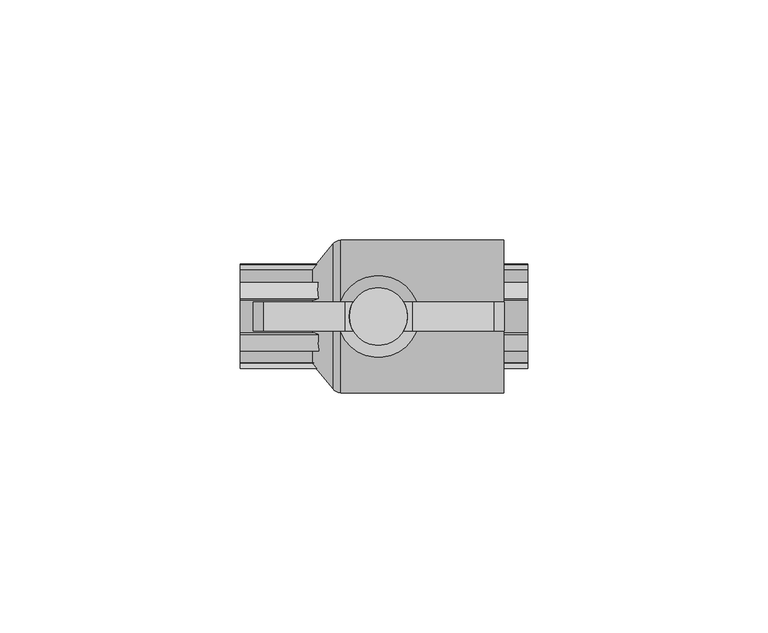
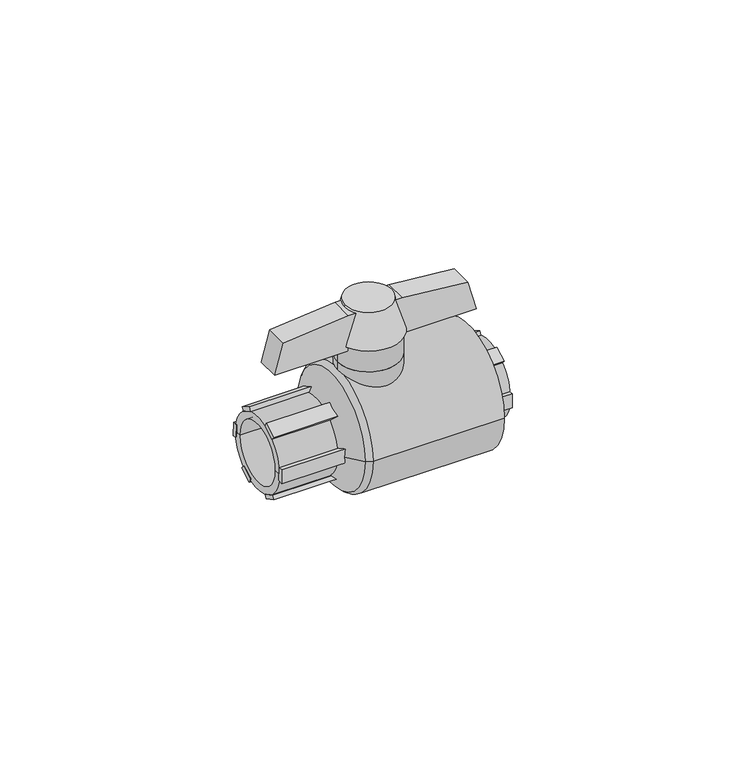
"""IFC4 building model written with IfcOpenShell, lengths in millimetres: valve geometry, Valvula Bola_Lubrizol_CPVC_FlowGuard_MX 13mm : Valvula Bola_Lubrizol_CPVC_FlowGuard_MX 13mm."""

import ifcopenshell
import ifcopenshell.guid

model = None  # the IFC model being written
_history = None  # IfcOwnerHistory: only IFC2X3 demands one
_inside = {}  # id of a spatial element -> (the spatial element, [elements in it])
_under = {}  # id of a project, library or spatial element -> (it, [spatial elements below it])
_declared = {}  # id of a project -> (the project, [libraries it declares])
_typed = {}  # id of a type object -> (the type object, [elements of that type])
_made_of = {}  # id of a material, layer set ... -> (it, [elements and type objects made of it])


def new_model(schema):
    """Start an empty IFC model of exactly this schema.

    Asked for "IFC4X3", IfcOpenShell would pick the latest addendum, in which some entities
    have other attributes; the version numbers below select the first issue.
    IFC2X3 requires an IfcOwnerHistory on every rooted entity: one is made here for all.
    """
    global model, _history
    if schema == "IFC4X3":
        model = ifcopenshell.file(schema_version=(4, 3, 0, 0))
    else:
        model = ifcopenshell.file(schema=schema)
    _inside.clear()
    _under.clear()
    _declared.clear()
    _typed.clear()
    _made_of.clear()
    _history = None
    if model.schema == "IFC2X3":
        org = make("IfcOrganization", Name="unknown")
        user = make(
            "IfcPersonAndOrganization",
            ThePerson=make("IfcPerson", FamilyName="unknown"),
            TheOrganization=org,
        )
        app = make(
            "IfcApplication",
            ApplicationDeveloper=org,
            Version="unknown",
            ApplicationFullName="unknown",
            ApplicationIdentifier="unknown",
        )
        _history = make(
            "IfcOwnerHistory",
            OwningUser=user,
            OwningApplication=app,
            ChangeAction="ADDED",
            CreationDate=0,
        )
    return model


def make(cls, **values):
    """One entity of the class cls with the attributes given. An attribute that is None is left unset."""
    return model.create_entity(
        cls, **{name: value for name, value in values.items() if value is not None}
    )


def rooted(cls, **values):
    """An entity with a GlobalId (a new one), such as an element, a storey or a relation."""
    return make(cls, GlobalId=ifcopenshell.guid.new(), OwnerHistory=_history, **values)


def si_unit(unit_type, name, prefix=None):
    """IfcSIUnit, for example si_unit("LENGTHUNIT", "METRE", prefix="MILLI")."""
    return make("IfcSIUnit", UnitType=unit_type, Prefix=prefix, Name=name)


def assignment(units):
    """IfcUnitAssignment: the units of a project."""
    return None if units is None else make("IfcUnitAssignment", Units=units)


def point(xyz):
    """IfcCartesianPoint."""
    return None if xyz is None else make("IfcCartesianPoint", Coordinates=xyz)


def direction(xyz):
    """IfcDirection."""
    return None if xyz is None else make("IfcDirection", DirectionRatios=xyz)


def frame(location, z_axis=None, x_axis=None):
    """IfcAxis2Placement3D, a coordinate frame: its origin and axes. An axis left out is left unset."""
    return make(
        "IfcAxis2Placement3D",
        Location=point(location),
        Axis=direction(z_axis),
        RefDirection=direction(x_axis),
    )


def frame_2d(location, x_axis=None):
    """IfcAxis2Placement2D, a coordinate frame in the plane: its origin and x axis."""
    return make(
        "IfcAxis2Placement2D", Location=point(location), RefDirection=direction(x_axis)
    )


def origin():
    """The frame at (0, 0, 0) with its axes left unset."""
    return frame((0.0, 0.0, 0.0))


def place(relative_to, where):
    """IfcLocalPlacement: puts the frame where relative to a parent placement (None: the world)."""
    return make(
        "IfcLocalPlacement", PlacementRelTo=relative_to, RelativePlacement=where
    )


def context(
    kind, dimensions, precision=None, world=None, true_north=None, identifier=None
):
    """IfcGeometricRepresentationContext, for example the 3D "Model" context."""
    return make(
        "IfcGeometricRepresentationContext",
        ContextIdentifier=identifier,
        ContextType=kind,
        CoordinateSpaceDimension=dimensions,
        Precision=precision,
        WorldCoordinateSystem=world,
        TrueNorth=true_north,
    )


def project(units=None, contexts=None):
    """IfcProject with its units and contexts."""
    return rooted(
        "IfcProject",
        Name="project",
        RepresentationContexts=contexts,
        UnitsInContext=assignment(units),
    )


def spatial(cls, under=None, at=None, **own):
    """A site, building, storey or space (cls), placed at a placement, below another one or the project."""
    s = rooted(cls, ObjectPlacement=at, **own)
    if under is not None:
        _under.setdefault(under.id(), (under, []))[1].append(s)
    return s


def polyline(points):
    """IfcPolyline through the points."""
    return make("IfcPolyline", Points=[point(p) for p in points])


def circle_curve(where, radius):
    """IfcCircle in the frame where."""
    return make("IfcCircle", Position=where, Radius=radius)


def ellipse_curve(where, semi_axis1, semi_axis2):
    """IfcEllipse in the frame where."""
    return make(
        "IfcEllipse", Position=where, SemiAxis1=semi_axis1, SemiAxis2=semi_axis2
    )


def trimmed(basis, trim1, trim2, sense, master):
    """IfcTrimmedCurve: the piece of a basis curve between two trims."""
    return make(
        "IfcTrimmedCurve",
        BasisCurve=basis,
        Trim1=trim1,
        Trim2=trim2,
        SenseAgreement=sense,
        MasterRepresentation=master,
    )


def segment(curve, same_sense, transition):
    """IfcCompositeCurveSegment."""
    return make(
        "IfcCompositeCurveSegment",
        Transition=transition,
        SameSense=same_sense,
        ParentCurve=curve,
    )


def composite_curve(segments, self_intersect=None):
    """IfcCompositeCurve: segments joined end to end."""
    return make("IfcCompositeCurve", Segments=segments, SelfIntersect=self_intersect)


def outline(outer, holes=None, kind="AREA"):
    """IfcArbitraryClosedProfileDef: a profile drawn as a closed curve; with holes, ...WithVoids."""
    if holes is None:
        return make("IfcArbitraryClosedProfileDef", ProfileType=kind, OuterCurve=outer)
    return make(
        "IfcArbitraryProfileDefWithVoids",
        ProfileType=kind,
        OuterCurve=outer,
        InnerCurves=holes,
    )


def extrude(swept, where, along, depth):
    """IfcExtrudedAreaSolid: the profile swept, set in the frame where, extruded along a direction by depth."""
    return make(
        "IfcExtrudedAreaSolid",
        SweptArea=swept,
        Position=where,
        ExtrudedDirection=direction(along),
        Depth=depth,
    )


def shape(context_of_items, identifier, shape_type, items):
    """IfcShapeRepresentation: the items that make up one representation, for example the "Body"."""
    return make(
        "IfcShapeRepresentation",
        ContextOfItems=context_of_items,
        RepresentationIdentifier=identifier,
        RepresentationType=shape_type,
        Items=items,
    )


def source(mapping_origin, context_of_items, identifier, shape_type, items):
    """IfcRepresentationMap: a shape defined once, which mapped items show again and again."""
    return make(
        "IfcRepresentationMap",
        MappingOrigin=mapping_origin,
        MappedRepresentation=shape(context_of_items, identifier, shape_type, items),
    )


def transform(
    local_origin,
    x_axis=None,
    y_axis=None,
    z_axis=None,
    scale=None,
    scale2=None,
    scale3=None,
    uniform=True,
):
    """IfcCartesianTransformationOperator3D, or its non-uniform kind. x_axis, y_axis, z_axis: its Axis1, 2, 3."""
    if uniform:
        return make(
            "IfcCartesianTransformationOperator3D",
            Axis1=direction(x_axis),
            Axis2=direction(y_axis),
            LocalOrigin=point(local_origin),
            Scale=scale,
            Axis3=direction(z_axis),
        )
    return make(
        "IfcCartesianTransformationOperator3DnonUniform",
        Axis1=direction(x_axis),
        Axis2=direction(y_axis),
        LocalOrigin=point(local_origin),
        Scale=scale,
        Axis3=direction(z_axis),
        Scale2=scale2,
        Scale3=scale3,
    )


def mapped(mapping_source, mapping_target):
    """IfcMappedItem: shows the shape of a source again, moved by a transform."""
    return make(
        "IfcMappedItem", MappingSource=mapping_source, MappingTarget=mapping_target
    )


def made_of(thing, what):
    """Note that an element or type object is made of a material, layer set ...; save() writes the relation."""
    if what is not None:
        _made_of.setdefault(what.id(), (what, []))[1].append(thing)
    return thing


def element(
    cls,
    number,
    at=None,
    inside=None,
    cuts=None,
    type_object=None,
    material=None,
    context=None,
    identifier="Body",
    shape_type=None,
    held_by="IfcProductDefinitionShape",
    body=None,
    shapes=None,
    **own,
):
    """One element of the class cls, such as IfcWall. Its Tag is "e" and its number.

    at: its placement. inside: the storey or other place that contains it. cuts: it is an
    opening in that element (IfcRelVoidsElement). A single representation is given by context,
    identifier, shape_type and body (its items); several are given by shapes. held_by: the class
    of the entity that holds the representations. save() writes the other relations.
    """
    e = rooted(cls, Tag="e%d" % number, ObjectPlacement=at, **own)
    if body is not None:
        shapes = [shape(context, identifier, shape_type, body)]
    if shapes is not None:
        e.Representation = make(held_by, Representations=shapes)
    if inside is not None:
        _inside.setdefault(inside.id(), (inside, []))[1].append(e)
    if cuts is not None:
        rooted(
            "IfcRelVoidsElement", RelatingBuildingElement=cuts, RelatedOpeningElement=e
        )
    if type_object is not None:
        _typed.setdefault(type_object.id(), (type_object, []))[1].append(e)
    return made_of(e, material)


def aggregate(whole, parts):
    """IfcRelAggregates: a whole, such as a stair, and the parts it consists of."""
    return rooted("IfcRelAggregates", RelatingObject=whole, RelatedObjects=parts)


def save(model, path):
    """Write the relations noted so far, then the file.

    IfcRelAggregates (storeys below a building ...), IfcRelContainedInSpatialStructure (elements
    in a storey), IfcRelDefinesByType, IfcRelAssociatesMaterial and IfcRelDeclares: one each for
    every whole, place, type object, material and project.
    """
    for whole, parts in _under.values():
        aggregate(whole, parts)
    for where, things in _inside.values():
        rooted(
            "IfcRelContainedInSpatialStructure",
            RelatedElements=things,
            RelatingStructure=where,
        )
    for kind, things in _typed.values():
        rooted("IfcRelDefinesByType", RelatedObjects=things, RelatingType=kind)
    for what, things in _made_of.values():
        rooted("IfcRelAssociatesMaterial", RelatedObjects=things, RelatingMaterial=what)
    for by, libraries in _declared.values():
        rooted("IfcRelDeclares", RelatingContext=by, RelatedDefinitions=libraries)
    model.write(path)


def plane_surface(at):
    """IfcPlane: the flat surface through the origin of the frame at, square to its z axis."""
    return make("IfcPlane", Position=at)


def cylinder_surface(at, radius):
    """IfcCylindricalSurface: all points at the distance radius from the z axis of the frame at."""
    return make("IfcCylindricalSurface", Position=at, Radius=radius)


def revolved_surface(curve, axis_point, axis_direction):
    """IfcSurfaceOfRevolution: the curve turned about the line through axis_point along axis_direction."""
    return make(
        "IfcSurfaceOfRevolution",
        SweptCurve=make("IfcArbitraryOpenProfileDef", ProfileType="CURVE", Curve=curve),
        AxisPosition=make("IfcAxis1Placement", Location=point(axis_point), Axis=direction(axis_direction)),
    )


def advanced_brep(points, edges, surfaces, faces):
    """IfcAdvancedBrep: a solid bounded by faces that lie on surfaces and meet in shared edges.

    An edge is (start, end): straight between two places in points (the first is 0);
    or (start, end, curve); or (start, end, curve, False) where it runs against its curve.
    A face is (place in surfaces, loops), or (place, loops, False) where it looks against
    its surface's normal. A loop lists edges by number (the first is 1), with a minus sign
    where the edge is run from its end to its start. The first loop is the outer one.
    """
    corners = [point(p) for p in points]
    vertices = [make("IfcVertexPoint", VertexGeometry=c) for c in corners]
    made = []
    for start, end, *more in edges:
        made.append(
            make(
                "IfcEdgeCurve",
                EdgeStart=vertices[start],
                EdgeEnd=vertices[end],
                EdgeGeometry=more[0] if more else make("IfcPolyline", Points=[corners[start], corners[end]]),
                SameSense=more[1] if len(more) > 1 else True,
            )
        )
    hull = []
    for where, loops, *sense in faces:
        bounds = []
        for j, loop in enumerate(loops):
            ring = [make("IfcOrientedEdge", EdgeElement=made[abs(k) - 1], Orientation=k > 0) for k in loop]
            bounds.append(
                make(
                    "IfcFaceOuterBound" if j == 0 else "IfcFaceBound",
                    Bound=make("IfcEdgeLoop", EdgeList=ring),
                    Orientation=True,
                )
            )
        hull.append(make("IfcAdvancedFace", Bounds=bounds, FaceSurface=surfaces[where], SameSense=sense[0] if sense else True))
    return make("IfcAdvancedBrep", Outer=make("IfcClosedShell", CfsFaces=hull))


def valve_255bd8fb(model_context):
    return source(origin(), model_context, "Body", "SolidModel", [
        extrude(outline(polyline([(22.172164, -32.2903482), (22.172164, 19.9626836), (30.2326633, 17.8028793), (31.8244556, 0.8226438), (31.8244556, -13.1716566), (30.2326633, -30.130544), (22.172164, -32.2903482)])), frame((0.0, -3.0, 0.0), z_axis=(0.0, 1.0, 0.0), x_axis=(0.0, 0.0, 1.0)), (0.0, 0.0, 1.0), 6.0),
        extrude(outline(composite_curve([segment(trimmed(circle_curve(frame_2d((4.0840847, -8.8834928)), 20.8), [point((-7.2048904, 8.586454))], [point((-3.7759157, 10.3742431))], False, "CARTESIAN"), True, "CONTINUOUS"), segment(polyline([(-3.7759157, 10.3742431), (-3.4180382, 9.3909829)]), True, "CONTINUOUS"), segment(trimmed(circle_curve(frame_2d((4.701954, -8.11775)), 19.3), [point((-3.4180382, 9.3909829))], [point((-6.4222868, 7.6537834))], True, "CARTESIAN"), True, "CONTINUOUS"), segment(polyline([(-6.4222868, 7.6537834), (-7.2048904, 8.586454)]), True, "CONTINUOUS")], self_intersect=False)), frame((19.8622305, 0.0, 0.0), z_axis=(1.0, 0.0, 0.0), x_axis=(0.0, 1.0, 0.0)), (0.0, 0.0, 1.0), 5.0),
        extrude(outline(composite_curve([segment(polyline([(10.9430325, -1.9295519), (9.8250025, -1.732413)]), True, "CONTINUOUS"), segment(trimmed(circle_curve(frame_2d((-9.4594162, -0.9570454)), 19.3), [point((9.8250025, -1.732413))], [point((9.6564361, 1.7026902))], True, "CARTESIAN"), True, "CONTINUOUS"), segment(polyline([(9.6564361, 1.7026902), (10.8076782, 1.9056853)]), True, "CONTINUOUS"), segment(trimmed(circle_curve(frame_2d((-9.8230634, -0.7424279)), 20.8), [point((10.8076782, 1.9056853))], [point((10.9430325, -1.9295519))], False, "CARTESIAN"), True, "CONTINUOUS")], self_intersect=False)), frame((19.8622305, 0.0, 0.0), z_axis=(1.0, 0.0, 0.0), x_axis=(0.0, 1.0, 0.0)), (0.0, 0.0, 1.0), 5.0),
        extrude(outline(composite_curve([segment(polyline([(-7.1507637, -8.5219484), (-6.4795686, -7.7220491)]), True, "CONTINUOUS"), segment(trimmed(circle_curve(frame_2d((4.0907226, 8.4259831)), 19.3), [point((-6.4795686, -7.7220491))], [point((-3.4061984, -9.3584532))], True, "CARTESIAN"), True, "CONTINUOUS"), segment(polyline([(-3.4061984, -9.3584532), (-3.7405306, -10.2770232)]), True, "CONTINUOUS"), segment(trimmed(circle_curve(frame_2d((4.0319731, 9.0161928)), 20.8), [point((-3.7405306, -10.2770232))], [point((-7.1507637, -8.5219484))], False, "CARTESIAN"), True, "CONTINUOUS")], self_intersect=False)), frame((19.8622305, 0.0, 0.0), z_axis=(1.0, 0.0, 0.0), x_axis=(0.0, 1.0, 0.0)), (0.0, 0.0, 1.0), 5.0),
        extrude(outline(composite_curve([segment(trimmed(circle_curve(frame_2d((-4.766466, 8.636562)), 20.8), [point((7.0920107, -8.4519292))], [point((3.7615613, -10.3348046))], False, "CARTESIAN"), True, "CONTINUOUS"), segment(polyline([(3.7615613, -10.3348046), (3.3471879, -9.1963231)]), True, "CONTINUOUS"), segment(trimmed(circle_curve(frame_2d((-4.2577644, 8.5421858)), 19.3), [point((3.3471879, -9.1963231))], [point((6.3573619, -7.5764088))], True, "CARTESIAN"), True, "CONTINUOUS"), segment(polyline([(6.3573619, -7.5764088), (7.0920107, -8.4519292)]), True, "CONTINUOUS")], self_intersect=False)), frame((19.8622305, 0.0, 0.0), z_axis=(1.0, 0.0, 0.0), x_axis=(0.0, 1.0, 0.0)), (0.0, 0.0, 1.0), 5.0),
        extrude(outline(composite_curve([segment(polyline([(7.0652889, 8.4200834), (6.367765, 7.5888068)]), True, "CONTINUOUS"), segment(trimmed(circle_curve(frame_2d((-4.6674192, -8.2451664)), 19.3), [point((6.367765, 7.5888068))], [point((3.3832958, 9.2955288))], True, "CARTESIAN"), True, "CONTINUOUS"), segment(polyline([(3.3832958, 9.2955288), (3.7547641, 10.3161297)]), True, "CONTINUOUS"), segment(trimmed(circle_curve(frame_2d((-4.8838426, -8.6051407)), 20.8), [point((3.7547641, 10.3161297))], [point((7.0652889, 8.4200834))], False, "CARTESIAN"), True, "CONTINUOUS")], self_intersect=False)), frame((19.8622305, 0.0, 0.0), z_axis=(1.0, 0.0, 0.0), x_axis=(0.0, 1.0, 0.0)), (0.0, 0.0, 1.0), 5.0),
        extrude(outline(composite_curve([segment(trimmed(circle_curve(frame_2d((9.8364844, 0.0742243)), 20.8), [point((-10.8680488, -1.9163302))], [point((-10.8815719, 1.9187147))], False, "CARTESIAN"), True, "CONTINUOUS"), segment(polyline([(-10.8815719, 1.9187147), (-9.6503243, 1.7016126)]), True, "CONTINUOUS"), segment(trimmed(circle_curve(frame_2d((9.6194059, 0.6211053)), 19.3), [point((-9.6503243, 1.7016126))], [point((-9.5426099, -1.6826196))], True, "CARTESIAN"), True, "CONTINUOUS"), segment(polyline([(-9.5426099, -1.6826196), (-10.8680488, -1.9163302)]), True, "CONTINUOUS")], self_intersect=False)), frame((19.8622305, 0.0, 0.0), z_axis=(1.0, 0.0, 0.0), x_axis=(0.0, 1.0, 0.0)), (0.0, 0.0, 1.0), 5.0),
        extrude(outline(composite_curve([segment(trimmed(circle_curve(frame_2d((4.0840847, -8.8834928)), 20.8), [point((-7.2048904, 8.586454))], [point((-3.7759157, 10.3742431))], False, "CARTESIAN"), True, "CONTINUOUS"), segment(polyline([(-3.7759157, 10.3742431), (-3.4180382, 9.3909829)]), True, "CONTINUOUS"), segment(trimmed(circle_curve(frame_2d((4.701954, -8.11775)), 19.3), [point((-3.4180382, 9.3909829))], [point((-6.4222868, 7.6537834))], True, "CARTESIAN"), True, "CONTINUOUS"), segment(polyline([(-6.4222868, 7.6537834), (-7.2048904, 8.586454)]), True, "CONTINUOUS")], self_intersect=False)), frame((-35.0, 0.0, 0.0), z_axis=(1.0, 0.0, 0.0), x_axis=(0.0, 1.0, 0.0)), (0.0, 0.0, 1.0), 20.8877117),
        extrude(outline(composite_curve([segment(polyline([(10.9430325, -1.9295519), (9.8250025, -1.732413)]), True, "CONTINUOUS"), segment(trimmed(circle_curve(frame_2d((-9.4594162, -0.9570454)), 19.3), [point((9.8250025, -1.732413))], [point((9.6564361, 1.7026902))], True, "CARTESIAN"), True, "CONTINUOUS"), segment(polyline([(9.6564361, 1.7026902), (10.8076782, 1.9056853)]), True, "CONTINUOUS"), segment(trimmed(circle_curve(frame_2d((-9.8230634, -0.7424279)), 20.8), [point((10.8076782, 1.9056853))], [point((10.9430325, -1.9295519))], False, "CARTESIAN"), True, "CONTINUOUS")], self_intersect=False)), frame((-35.0, 0.0, 0.0), z_axis=(1.0, 0.0, 0.0), x_axis=(0.0, 1.0, 0.0)), (0.0, 0.0, 1.0), 20.8877117),
        extrude(outline(composite_curve([segment(polyline([(-7.1507637, -8.5219484), (-6.4795686, -7.7220491)]), True, "CONTINUOUS"), segment(trimmed(circle_curve(frame_2d((4.0907226, 8.4259831)), 19.3), [point((-6.4795686, -7.7220491))], [point((-3.4061984, -9.3584532))], True, "CARTESIAN"), True, "CONTINUOUS"), segment(polyline([(-3.4061984, -9.3584532), (-3.7405306, -10.2770232)]), True, "CONTINUOUS"), segment(trimmed(circle_curve(frame_2d((4.0319731, 9.0161928)), 20.8), [point((-3.7405306, -10.2770232))], [point((-7.1507637, -8.5219484))], False, "CARTESIAN"), True, "CONTINUOUS")], self_intersect=False)), frame((-35.0, 0.0, 0.0), z_axis=(1.0, 0.0, 0.0), x_axis=(0.0, 1.0, 0.0)), (0.0, 0.0, 1.0), 20.8877117),
        extrude(outline(composite_curve([segment(trimmed(circle_curve(frame_2d((-4.766466, 8.636562)), 20.8), [point((7.0920107, -8.4519292))], [point((3.7615613, -10.3348046))], False, "CARTESIAN"), True, "CONTINUOUS"), segment(polyline([(3.7615613, -10.3348046), (3.3471879, -9.1963231)]), True, "CONTINUOUS"), segment(trimmed(circle_curve(frame_2d((-4.2577644, 8.5421858)), 19.3), [point((3.3471879, -9.1963231))], [point((6.3573619, -7.5764088))], True, "CARTESIAN"), True, "CONTINUOUS"), segment(polyline([(6.3573619, -7.5764088), (7.0920107, -8.4519292)]), True, "CONTINUOUS")], self_intersect=False)), frame((-35.0, 0.0, 0.0), z_axis=(1.0, 0.0, 0.0), x_axis=(0.0, 1.0, 0.0)), (0.0, 0.0, 1.0), 20.8877117),
        extrude(outline(composite_curve([segment(polyline([(7.0652889, 8.4200834), (6.367765, 7.5888068)]), True, "CONTINUOUS"), segment(trimmed(circle_curve(frame_2d((-4.6674192, -8.2451664)), 19.3), [point((6.367765, 7.5888068))], [point((3.3832958, 9.2955288))], True, "CARTESIAN"), True, "CONTINUOUS"), segment(polyline([(3.3832958, 9.2955288), (3.7547641, 10.3161297)]), True, "CONTINUOUS"), segment(trimmed(circle_curve(frame_2d((-4.8838426, -8.6051407)), 20.8), [point((3.7547641, 10.3161297))], [point((7.0652889, 8.4200834))], False, "CARTESIAN"), True, "CONTINUOUS")], self_intersect=False)), frame((-35.0, 0.0, 0.0), z_axis=(1.0, 0.0, 0.0), x_axis=(0.0, 1.0, 0.0)), (0.0, 0.0, 1.0), 20.8877117),
        extrude(outline(composite_curve([segment(trimmed(circle_curve(frame_2d((9.8364844, 0.0742243)), 20.8), [point((-10.8680488, -1.9163302))], [point((-10.8815719, 1.9187147))], False, "CARTESIAN"), True, "CONTINUOUS"), segment(polyline([(-10.8815719, 1.9187147), (-9.6503243, 1.7016126)]), True, "CONTINUOUS"), segment(trimmed(circle_curve(frame_2d((9.6194059, 0.6211053)), 19.3), [point((-9.6503243, 1.7016126))], [point((-9.5426099, -1.6826196))], True, "CARTESIAN"), True, "CONTINUOUS"), segment(polyline([(-9.5426099, -1.6826196), (-10.8680488, -1.9163302)]), True, "CONTINUOUS")], self_intersect=False)), frame((-35.0, 0.0, 0.0), z_axis=(1.0, 0.0, 0.0), x_axis=(0.0, 1.0, 0.0)), (0.0, 0.0, 1.0), 20.8877117),
        advanced_brep(
        [(-12.25, 0.0, 32.6864153), (-0.25, 0.0, 32.6864153), (-14.75, 0.0, 23.8009614), (2.25, 0.0, 23.8009614)],
        [
            (0, 1, circle_curve(frame((-6.25, 0.0, 32.6864153), z_axis=(0.0, 0.0, 1.0), x_axis=(-1.0, 0.0, 0.0)), 6.0)),
            (1, 0, circle_curve(frame((-6.25, 0.0, 32.6864153), z_axis=(0.0, 0.0, 1.0), x_axis=(1.0, 0.0, 0.0)), 6.0)),
            (2, 3, circle_curve(frame((-6.25, 0.0, 23.8009614), z_axis=(0.0, 0.0, -1.0), x_axis=(1.0, 0.0, 0.0)), 8.5)),
            (3, 2, circle_curve(frame((-6.25, 0.0, 23.8009614), z_axis=(0.0, 0.0, -1.0), x_axis=(-1.0, 0.0, 0.0)), 8.5)),
            (3, 1),
            (0, 2),
        ],
        [
            plane_surface(frame((-6.25, 0.0, 32.6864153), z_axis=(0.0, 0.0, 1.0), x_axis=(0.0, -1.0, 0.0))),
            plane_surface(frame((-6.25, 0.0, 23.8009614), z_axis=(0.0, 0.0, -1.0), x_axis=(0.0, -1.0, 0.0))),
            revolved_surface(polyline([(-12.250000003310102, 0.0, 32.6864153), (-14.75, 0.0, 23.8009614)]), (-6.25, 0.0, 54.0115047), (0.0, 0.0, -1.0)),
            revolved_surface(polyline([(-0.2499999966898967, 0.0, 32.6864153), (2.25, 0.0, 23.8009614)]), (-6.25, 0.0, 54.0115047), (0.0, 0.0, -1.0)),
        ],
        [
            (0, [[1, 2]]),
            (1, [[3, 4]]),
            (2, [[-4, 5, -1, 6]]),
            (3, [[-3, -6, -2, -5]]),
        ],
    ),
        extrude(outline(composite_curve([segment(trimmed(circle_curve(frame_2d((-6.25, 0.0)), 8.0), [point((-14.25, 0.0))], [point((1.75, 0.0))], False, "CARTESIAN"), True, "CONTINUOUS"), segment(trimmed(circle_curve(frame_2d((-6.25, 0.0)), 8.0), [point((1.75, 0.0))], [point((-14.25, 0.0))], False, "CARTESIAN"), True, "CONTINUOUS")], self_intersect=False)), frame((0.0, 0.0, 17.7563489), z_axis=(0.0, 0.0, 1.0), x_axis=(1.0, 0.0, 0.0)), (0.0, 0.0, 1.0), 6.0446125),
        extrude(outline(composite_curve([segment(trimmed(circle_curve(frame_2d((-6.25, 0.0)), 8.0), [point((-14.25, 0.0))], [point((1.75, 0.0))], False, "CARTESIAN"), True, "CONTINUOUS"), segment(trimmed(circle_curve(frame_2d((-6.25, 0.0)), 8.0), [point((1.75, 0.0))], [point((-14.25, 0.0))], False, "CARTESIAN"), True, "CONTINUOUS")], self_intersect=False)), frame((0.0, 0.0, -7.4840965), z_axis=(0.0, 0.0, 1.0), x_axis=(1.0, 0.0, 0.0)), (0.0, 0.0, 1.0), 25.2404454),
        advanced_brep(
        [(-14.1122883, -15.917251, 0.0), (-14.1122883, 15.917251, 0.0), (19.8622305, 15.917251, 0.0), (19.8622305, -15.917251, 0.0), (-19.925, -10.0, 0.0), (-19.925, 10.0, 0.0), (-15.7837162, 15.0422025, 0.0), (-15.7837162, -15.0422025, 0.0), (-35.0, -10.0, 0.0), (-35.0, 10.0, 0.0), (-35.0, -8.0, 0.0), (-35.0, 8.0, 0.0), (-18.8015739, -8.0, 0.0), (-18.8015739, 8.0, 0.0), (-18.8015739, 0.0, 0.0), (-0.1377695, -8.0, 0.0), (-0.1377695, 8.0, 0.0), (-0.1377695, 0.0, 0.0), (24.8622305, -8.0, 0.0), (24.8622305, 8.0, 0.0), (24.8622305, -10.0, 0.0), (24.8622305, 10.0, 0.0), (19.8622305, -10.0, 0.0), (19.8622305, 10.0, 0.0)],
        [
            (0, 1, circle_curve(frame((-14.1122883, 0.0, 0.0), z_axis=(1.0, 0.0, 0.0), x_axis=(0.0, 1.0, 0.0)), 15.917251)),
            (1, 2),
            (2, 3, circle_curve(frame((19.8622305, 0.0, 0.0), z_axis=(-1.0, 0.0, 0.0), x_axis=(0.0, 1.0, 0.0)), 15.917251)),
            (3, 0),
            (1, 0, circle_curve(frame((-14.1122883, 0.0, 0.0), z_axis=(1.0, 0.0, 0.0), x_axis=(0.0, 1.0, 0.0)), 15.917251)),
            (3, 2, circle_curve(frame((19.8622305, 0.0, 0.0), z_axis=(-1.0, 0.0, 0.0), x_axis=(0.0, 1.0, 0.0)), 15.917251)),
            (4, 5, circle_curve(frame((-19.925, 0.0, 0.0), z_axis=(1.0, 0.0, 0.0), x_axis=(0.0, 1.0, 0.0)), 10.0)),
            (5, 6),
            (6, 7, circle_curve(frame((-15.7837162, 0.0, 0.0), z_axis=(-1.0, 0.0, 0.0), x_axis=(0.0, 1.0, 0.0)), 15.0422025)),
            (7, 4),
            (5, 4, circle_curve(frame((-19.925, 0.0, 0.0), z_axis=(1.0, 0.0, 0.0), x_axis=(0.0, 1.0, 0.0)), 10.0)),
            (7, 6, circle_curve(frame((-15.7837162, 0.0, 0.0), z_axis=(-1.0, 0.0, 0.0), x_axis=(0.0, 1.0, 0.0)), 15.0422025)),
            (8, 9, circle_curve(frame((-35.0, 0.0, 0.0), z_axis=(1.0, 0.0, 0.0), x_axis=(0.0, 1.0, 0.0)), 10.0)),
            (9, 5),
            (4, 8),
            (9, 8, circle_curve(frame((-35.0, 0.0, 0.0), z_axis=(1.0, 0.0, 0.0), x_axis=(0.0, 1.0, 0.0)), 10.0)),
            (10, 11, circle_curve(frame((-35.0, 0.0, 0.0), z_axis=(1.0, 0.0, 0.0), x_axis=(0.0, 1.0, 0.0)), 8.0)),
            (11, 9),
            (8, 10),
            (11, 10, circle_curve(frame((-35.0, 0.0, 0.0), z_axis=(1.0, 0.0, 0.0), x_axis=(0.0, 1.0, 0.0)), 8.0)),
            (12, 13, circle_curve(frame((-18.8015739, 0.0, 0.0), z_axis=(1.0, 0.0, 0.0), x_axis=(0.0, 1.0, 0.0)), 8.0)),
            (13, 11),
            (10, 12),
            (13, 12, circle_curve(frame((-18.8015739, 0.0, 0.0), z_axis=(1.0, 0.0, 0.0), x_axis=(0.0, 1.0, 0.0)), 8.0)),
            (14, 13),
            (12, 14),
            (15, 16, circle_curve(frame((-0.1377695, 0.0, 0.0), z_axis=(1.0, 0.0, 0.0), x_axis=(0.0, 1.0, 0.0)), 8.0)),
            (16, 17),
            (17, 15),
            (16, 15, circle_curve(frame((-0.1377695, 0.0, 0.0), z_axis=(1.0, 0.0, 0.0), x_axis=(0.0, 1.0, 0.0)), 8.0)),
            (18, 19, circle_curve(frame((24.8622305, 0.0, 0.0), z_axis=(1.0, 0.0, 0.0), x_axis=(0.0, 1.0, 0.0)), 8.0)),
            (19, 16),
            (15, 18),
            (19, 18, circle_curve(frame((24.8622305, 0.0, 0.0), z_axis=(1.0, 0.0, 0.0), x_axis=(0.0, 1.0, 0.0)), 8.0)),
            (20, 21, circle_curve(frame((24.8622305, 0.0, 0.0), z_axis=(1.0, 0.0, 0.0), x_axis=(0.0, 1.0, 0.0)), 10.0)),
            (21, 19),
            (18, 20),
            (21, 20, circle_curve(frame((24.8622305, 0.0, 0.0), z_axis=(1.0, 0.0, 0.0), x_axis=(0.0, 1.0, 0.0)), 10.0)),
            (22, 23, circle_curve(frame((19.8622305, 0.0, 0.0), z_axis=(1.0, 0.0, 0.0), x_axis=(0.0, 1.0, 0.0)), 10.0)),
            (23, 21),
            (20, 22),
            (23, 22, circle_curve(frame((19.8622305, 0.0, 0.0), z_axis=(1.0, 0.0, 0.0), x_axis=(0.0, 1.0, 0.0)), 10.0)),
            (2, 23),
            (22, 3),
            (6, 1, circle_curve(frame((-13.9157243, 13.5079753, 0.0), z_axis=(0.0, 0.0, -1.0), x_axis=(1.0, 0.0, 0.0)), 2.4172808)),
            (0, 7, circle_curve(frame((-13.9157243, -13.5079753, 0.0), z_axis=(0.0, 0.0, -1.0), x_axis=(1.0, 0.0, 0.0)), 2.4172808)),
        ],
        [
            cylinder_surface(frame((-38.5589691, 0.0, 0.0), z_axis=(-1.0, 0.0, 0.0), x_axis=(0.0, 1.0, 0.0)), 15.917251),
            revolved_surface(polyline([(-15.7837162, 15.0422025, 0.0), (-19.925, 10.0, 0.0)]), (-38.5589691, 0.0, 0.0), (-1.0, 0.0, 0.0)),
            cylinder_surface(frame((-38.5589691, 0.0, 0.0), z_axis=(-1.0, 0.0, 0.0), x_axis=(0.0, 1.0, 0.0)), 10.0),
            plane_surface(frame((-35.0, 0.0, 0.0), z_axis=(-1.0, 0.0, 0.0), x_axis=(0.0, 1.0, 0.0))),
            revolved_surface(polyline([(-35.0, 8.0, 0.0), (-18.8015739, 8.0, 0.0)]), (-38.5589691, 0.0, 0.0), (-1.0, 0.0, 0.0)),
            plane_surface(frame((-18.8015739, 0.0, 0.0), z_axis=(-1.0, 0.0, 0.0), x_axis=(0.0, 1.0, 0.0))),
            plane_surface(frame((-0.1377695, 0.0, 0.0), z_axis=(1.0, 0.0, 0.0), x_axis=(0.0, 1.0, 0.0))),
            revolved_surface(polyline([(-0.13776949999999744, 8.0, 0.0), (24.862230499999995, 8.0, 0.0)]), (-38.5589691, 0.0, 0.0), (-1.0, 0.0, 0.0)),
            plane_surface(frame((24.8622305, 0.0, 0.0), z_axis=(1.0, 0.0, 0.0), x_axis=(0.0, 1.0, 0.0))),
            plane_surface(frame((19.8622305, 0.0, 0.0), z_axis=(1.0, 0.0, 0.0), x_axis=(0.0, 1.0, 0.0))),
            revolved_surface(trimmed(ellipse_curve(frame((-13.9157243, 13.5079753, 0.0), z_axis=(0.0, 0.0, 1.0), x_axis=(1.0, 0.0, 0.0)), 2.4172808, 2.4172808), [point((-14.1122883, 15.917251, 0.0))], [point((-15.7837162, 15.0422025, 0.0))], True, "CARTESIAN"), (-38.5589691, 0.0, 0.0), (-1.0, 0.0, 0.0)),
        ],
        [
            (0, [[1, 2, 3, 4]]),
            (0, [[5, -4, 6, -2]]),
            (1, [[7, 8, 9, 10]]),
            (1, [[11, -10, 12, -8]]),
            (2, [[13, 14, -7, 15]]),
            (2, [[16, -15, -11, -14]]),
            (3, [[17, 18, -13, 19]]),
            (3, [[20, -19, -16, -18]]),
            (4, [[21, 22, -17, 23]]),
            (4, [[24, -23, -20, -22]]),
            (5, [[25, -21, 26]]),
            (5, [[-26, -24, -25]]),
            (6, [[27, 28, 29]]),
            (6, [[30, -29, -28]]),
            (7, [[31, 32, -27, 33]]),
            (7, [[34, -33, -30, -32]]),
            (8, [[35, 36, -31, 37]]),
            (8, [[38, -37, -34, -36]]),
            (2, [[39, 40, -35, 41]]),
            (2, [[42, -41, -38, -40]]),
            (9, [[-3, 43, -39, 44]]),
            (9, [[-6, -44, -42, -43]]),
            (10, [[-9, 45, -1, 46]]),
            (10, [[-12, -46, -5, -45]]),
        ],
    ),
    ])


if __name__ == "__main__":
    model = new_model("IFC4")
    model_context = context("Model", 3, world=origin())
    ifc_project = project(units=[si_unit("LENGTHUNIT", "METRE", prefix="MILLI")], contexts=[model_context])
    site = spatial("IfcSite", under=ifc_project)
    building = spatial("IfcBuilding", under=site)
    placement = place(None, origin())
    valve_shape = valve_255bd8fb(model_context)
    element("IfcValve", 1, ObjectType="Valvula Bola_Lubrizol_CPVC_FlowGuard_MX 13mm : Valvula Bola_Lubrizol_CPVC_FlowGuard_MX 13mm", at=placement, inside=building, context=model_context, shape_type="MappedRepresentation", body=[
        mapped(valve_shape, transform((0.0, 0.0, 0.0), x_axis=(1.0, 0.0, 0.0), y_axis=(0.0, 1.0, 0.0), z_axis=(0.0, 0.0, 1.0))),
    ])
    save(model, "model.ifc")
